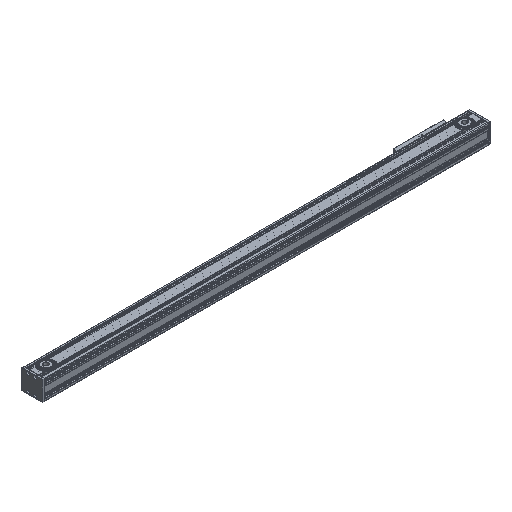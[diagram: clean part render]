
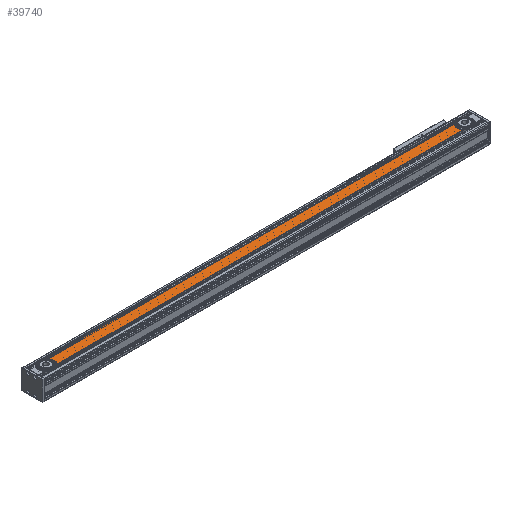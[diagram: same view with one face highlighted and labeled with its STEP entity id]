
A CAD part, isometric view. The second image highlights one B-rep face of the part: STEP entity #39740.
In plain terms, the highlighted planar face has unit normal (0, 0, 1).
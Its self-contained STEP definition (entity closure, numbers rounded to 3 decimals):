
#1692 = ORIENTED_EDGE ( 'NONE', *, *, #57431, .T. ) ;
#3874 = CARTESIAN_POINT ( 'NONE',  ( 1555.328, 83.121, 83.366 ) ) ;
#4080 = VERTEX_POINT ( 'NONE', #18581 ) ;
#10678 = DIRECTION ( 'NONE',  ( 1., 0., 0. ) ) ;
#14180 = DIRECTION ( 'NONE',  ( 0., 0., 1. ) ) ;
#16119 = ORIENTED_EDGE ( 'NONE', *, *, #82903, .T. ) ;
#18581 = CARTESIAN_POINT ( 'NONE',  ( -91.244, 62.821, 83.366 ) ) ;
#18628 = CIRCLE ( 'NONE', #45964, 31. ) ;
#25693 = DIRECTION ( 'NONE',  ( 1., 0., 0. ) ) ;
#26074 = DIRECTION ( 'NONE',  ( 1., 0., 0. ) ) ;
#26426 = VERTEX_POINT ( 'NONE', #79108 ) ;
#28472 = ORIENTED_EDGE ( 'NONE', *, *, #68517, .F. ) ;
#29297 = CIRCLE ( 'NONE', #100622, 31. ) ;
#30508 = CARTESIAN_POINT ( 'NONE',  ( -164.672, 62.821, 83.366 ) ) ;
#32069 = PLANE ( 'NONE',  #56844 ) ;
#33487 = CARTESIAN_POINT ( 'NONE',  ( 1531.899, 103.421, 83.366 ) ) ;
#34919 = DIRECTION ( 'NONE',  ( 0., 0., 1. ) ) ;
#39740 = ADVANCED_FACE ( 'NONE', ( #111620 ), #32069, .T. ) ;
#43996 = DIRECTION ( 'NONE',  ( -1., 0., 0. ) ) ;
#45616 = DIRECTION ( 'NONE',  ( 0., 0., -1. ) ) ;
#45964 = AXIS2_PLACEMENT_3D ( 'NONE', #3874, #34919, #25693 ) ;
#52817 = ORIENTED_EDGE ( 'NONE', *, *, #80445, .T. ) ;
#56844 = AXIS2_PLACEMENT_3D ( 'NONE', #105010, #14180, #26074 ) ;
#57431 = EDGE_CURVE ( 'NONE', #4080, #26426, #108802, .T. ) ;
#58303 = VECTOR ( 'NONE', #10678, 1000. ) ;
#66934 = EDGE_LOOP ( 'NONE', ( #1692, #28472, #52817, #16119 ) ) ;
#68517 = EDGE_CURVE ( 'NONE', #71641, #26426, #18628, .T. ) ;
#71641 = VERTEX_POINT ( 'NONE', #33487 ) ;
#74760 = VERTEX_POINT ( 'NONE', #86462 ) ;
#79108 = CARTESIAN_POINT ( 'NONE',  ( 1531.899, 62.821, 83.366 ) ) ;
#80445 = EDGE_CURVE ( 'NONE', #71641, #74760, #113117, .T. ) ;
#82903 = EDGE_CURVE ( 'NONE', #74760, #4080, #29297, .T. ) ;
#83831 = DIRECTION ( 'NONE',  ( -1., 0., 0. ) ) ;
#86462 = CARTESIAN_POINT ( 'NONE',  ( -91.244, 103.421, 83.366 ) ) ;
#100622 = AXIS2_PLACEMENT_3D ( 'NONE', #118528, #45616, #83831 ) ;
#101861 = VECTOR ( 'NONE', #43996, 1000. ) ;
#104535 = CARTESIAN_POINT ( 'NONE',  ( -164.672, 103.421, 83.366 ) ) ;
#105010 = CARTESIAN_POINT ( 'NONE',  ( -164.672, 119.121, 83.366 ) ) ;
#108802 = LINE ( 'NONE', #30508, #58303 ) ;
#111620 = FACE_OUTER_BOUND ( 'NONE', #66934, .T. ) ;
#113117 = LINE ( 'NONE', #104535, #101861 ) ;
#118528 = CARTESIAN_POINT ( 'NONE',  ( -114.672, 83.121, 83.366 ) ) ;
